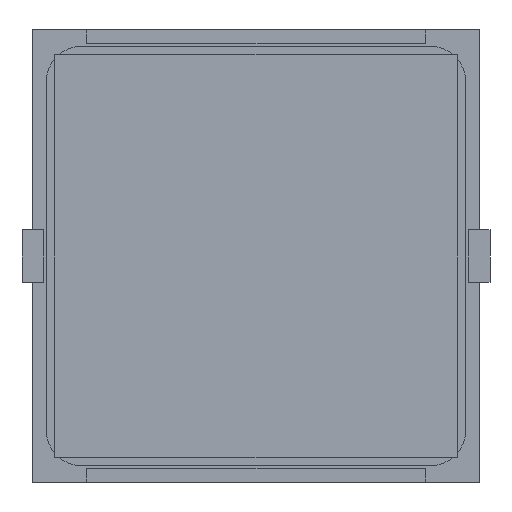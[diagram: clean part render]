
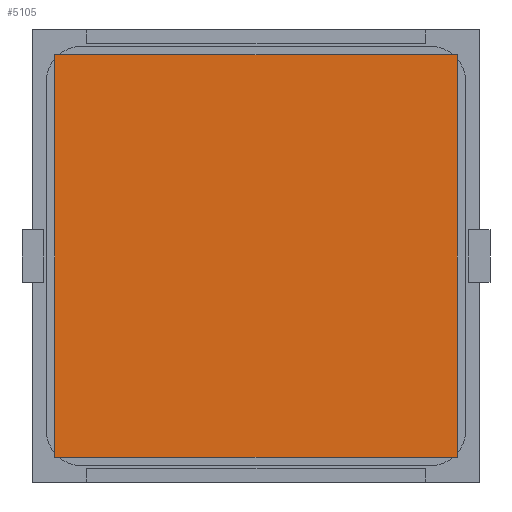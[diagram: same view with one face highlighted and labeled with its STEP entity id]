
A CAD part, front view. The second image highlights one B-rep face of the part: STEP entity #5105.
In plain terms, the highlighted planar face has unit normal (0, -1, 0).
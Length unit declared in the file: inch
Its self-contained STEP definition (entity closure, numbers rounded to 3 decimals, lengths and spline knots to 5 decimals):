
#734 = DIRECTION ( 'NONE',  ( 0., 0., 1. ) ) ;
#1088 = DIRECTION ( 'NONE',  ( 0., 0., 1. ) ) ;
#1112 = VECTOR ( 'NONE', #10463, 39.37008 ) ;
#1119 = ORIENTED_EDGE ( 'NONE', *, *, #10061, .F. ) ;
#1325 = CARTESIAN_POINT ( 'NONE',  ( -0.74803, -0.005, -0.74803 ) ) ;
#1428 = DIRECTION ( 'NONE',  ( 0., 0., -1. ) ) ;
#1654 = ORIENTED_EDGE ( 'NONE', *, *, #6071, .F. ) ;
#2220 = PLANE ( 'NONE',  #4335 ) ;
#2370 = LINE ( 'NONE', #9685, #7336 ) ;
#2846 = CARTESIAN_POINT ( 'NONE',  ( -0.74803, -0.005, 0.74803 ) ) ;
#3023 = LINE ( 'NONE', #1325, #1112 ) ;
#3283 = EDGE_CURVE ( 'NONE', #10429, #5845, #3023, .T. ) ;
#3470 = ORIENTED_EDGE ( 'NONE', *, *, #8936, .F. ) ;
#4125 = LINE ( 'NONE', #9339, #11047 ) ;
#4334 = LINE ( 'NONE', #10508, #5658 ) ;
#4335 = AXIS2_PLACEMENT_3D ( 'NONE', #2846, #11407, #1088 ) ;
#5105 = ADVANCED_FACE ( 'NONE', ( #10398 ), #2220, .F. ) ;
#5658 = VECTOR ( 'NONE', #1428, 39.37008 ) ;
#5845 = VERTEX_POINT ( 'NONE', #6000 ) ;
#6000 = CARTESIAN_POINT ( 'NONE',  ( -0.74803, -0.005, -0.74803 ) ) ;
#6071 = EDGE_CURVE ( 'NONE', #8821, #7670, #4125, .T. ) ;
#6171 = ORIENTED_EDGE ( 'NONE', *, *, #3283, .F. ) ;
#7336 = VECTOR ( 'NONE', #734, 39.37008 ) ;
#7670 = VERTEX_POINT ( 'NONE', #10755 ) ;
#7675 = CARTESIAN_POINT ( 'NONE',  ( 0.74803, -0.005, -0.74803 ) ) ;
#7749 = DIRECTION ( 'NONE',  ( 1., 0., 0. ) ) ;
#7771 = CARTESIAN_POINT ( 'NONE',  ( -0.74803, -0.005, 0.74803 ) ) ;
#8538 = EDGE_LOOP ( 'NONE', ( #1119, #6171, #3470, #1654 ) ) ;
#8821 = VERTEX_POINT ( 'NONE', #7771 ) ;
#8936 = EDGE_CURVE ( 'NONE', #7670, #10429, #4334, .T. ) ;
#9339 = CARTESIAN_POINT ( 'NONE',  ( -0.74803, -0.005, 0.74803 ) ) ;
#9685 = CARTESIAN_POINT ( 'NONE',  ( -0.74803, -0.005, -0.74803 ) ) ;
#10061 = EDGE_CURVE ( 'NONE', #5845, #8821, #2370, .T. ) ;
#10398 = FACE_OUTER_BOUND ( 'NONE', #8538, .T. ) ;
#10429 = VERTEX_POINT ( 'NONE', #7675 ) ;
#10463 = DIRECTION ( 'NONE',  ( -1., 0., 0. ) ) ;
#10508 = CARTESIAN_POINT ( 'NONE',  ( 0.74803, -0.005, -0.74803 ) ) ;
#10755 = CARTESIAN_POINT ( 'NONE',  ( 0.74803, -0.005, 0.74803 ) ) ;
#11047 = VECTOR ( 'NONE', #7749, 39.37008 ) ;
#11407 = DIRECTION ( 'NONE',  ( 0., 1., 0. ) ) ;
